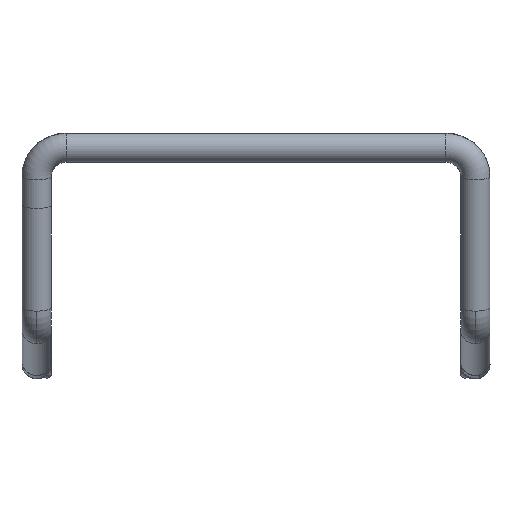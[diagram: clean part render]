
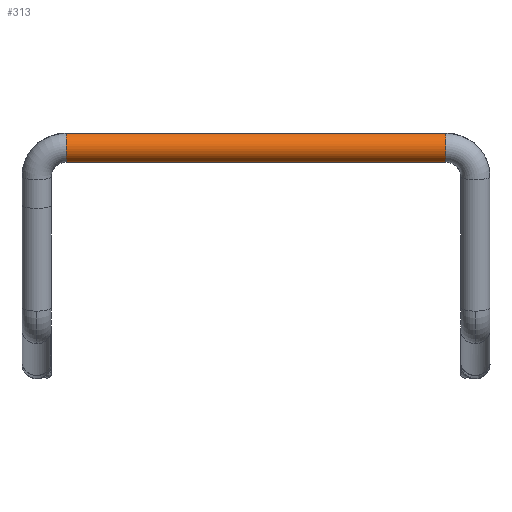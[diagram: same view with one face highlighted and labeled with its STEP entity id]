
A CAD part, left-side view. The second image highlights one B-rep face of the part: STEP entity #313.
In plain terms, the highlighted cylindrical face has radius 5 mm (diameter 10 mm), a partial arc.
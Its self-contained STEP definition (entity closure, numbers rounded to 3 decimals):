
#82=CARTESIAN_POINT('Vertex',(-532.962,-793.5,186.812)) ;
#89=CARTESIAN_POINT('Vertex',(-535.387,-793.5,196.514)) ;
#172=CARTESIAN_POINT('Axis2P3D Location',(-534.175,-793.5,191.663)) ;
#189=CARTESIAN_POINT('Line Origine',(-535.387,-728.999,196.514)) ;
#193=CARTESIAN_POINT('Vertex',(-535.387,-664.498,196.514)) ;
#196=CARTESIAN_POINT('Line Origine',(-532.962,-728.999,186.812)) ;
#200=CARTESIAN_POINT('Vertex',(-532.962,-664.498,186.812)) ;
#297=CARTESIAN_POINT('Axis2P3D Location',(-534.175,-728.999,191.663)) ;
#302=CARTESIAN_POINT('Axis2P3D Location',(-534.175,-664.498,191.663)) ;
#173=DIRECTION('Axis2P3D Direction',(0.,1.,0.)) ;
#190=DIRECTION('Vector Direction',(0.,1.,0.)) ;
#197=DIRECTION('Vector Direction',(0.,1.,0.)) ;
#298=DIRECTION('Axis2P3D Direction',(0.,1.,0.)) ;
#299=DIRECTION('Axis2P3D XDirection',(0.243,0.,-0.97)) ;
#303=DIRECTION('Axis2P3D Direction',(0.,1.,0.)) ;
#174=AXIS2_PLACEMENT_3D('Circle Axis2P3D',#172,#173,$) ;
#300=AXIS2_PLACEMENT_3D('Cylinder Axis2P3D',#297,#298,#299) ;
#304=AXIS2_PLACEMENT_3D('Circle Axis2P3D',#302,#303,$) ;
#308=ORIENTED_EDGE('',*,*,#202,.T.) ;
#309=ORIENTED_EDGE('',*,*,#176,.T.) ;
#310=ORIENTED_EDGE('',*,*,#195,.F.) ;
#311=ORIENTED_EDGE('',*,*,#306,.F.) ;
#191=VECTOR('Line Direction',#190,1.) ;
#198=VECTOR('Line Direction',#197,1.) ;
#313=ADVANCED_FACE('Brep With Voids',(#312),#301,.T.) ;
#175=CIRCLE('generated circle',#174,5.) ;
#305=CIRCLE('generated circle',#304,5.) ;
#301=CYLINDRICAL_SURFACE('generated cylinder',#300,5.) ;
#176=EDGE_CURVE('',#83,#90,#175,.T.) ;
#195=EDGE_CURVE('',#194,#90,#192,.F.) ;
#202=EDGE_CURVE('',#201,#83,#199,.F.) ;
#306=EDGE_CURVE('',#201,#194,#305,.T.) ;
#307=EDGE_LOOP('',(#308,#309,#310,#311)) ;
#312=FACE_OUTER_BOUND('',#307,.T.) ;
#192=LINE('Line',#189,#191) ;
#199=LINE('Line',#196,#198) ;
#83=VERTEX_POINT('',#82) ;
#90=VERTEX_POINT('',#89) ;
#194=VERTEX_POINT('',#193) ;
#201=VERTEX_POINT('',#200) ;
